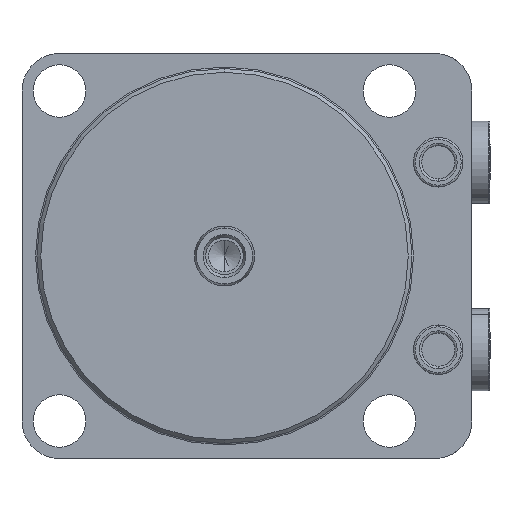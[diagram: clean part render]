
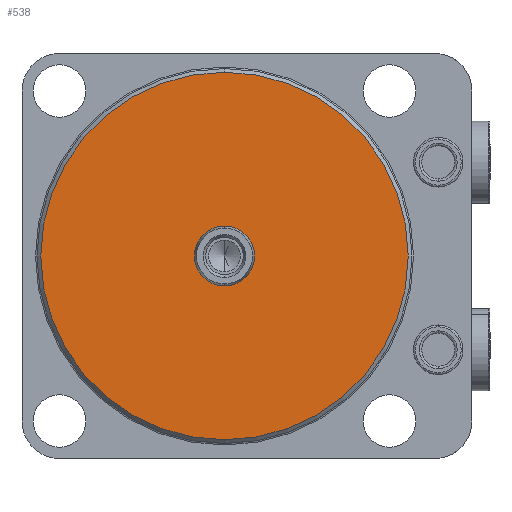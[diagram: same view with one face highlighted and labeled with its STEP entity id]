
A CAD part, front view. The second image highlights one B-rep face of the part: STEP entity #538.
In plain terms, the highlighted planar face has unit normal (0, -1, 0) as drawn and (0, 1, 0) by its records, which use the part's own axes.
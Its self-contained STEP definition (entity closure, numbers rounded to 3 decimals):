
#223=PLANE('',#3543);
#278=FACE_BOUND('',#971,.F.);
#279=FACE_BOUND('',#972,.F.);
#538=ADVANCED_FACE('',(#278,#279),#223,.T.);
#971=EDGE_LOOP('',(#2055,#2056));
#972=EDGE_LOOP('',(#2057,#2058));
#2055=ORIENTED_EDGE('',*,*,#2950,.T.);
#2056=ORIENTED_EDGE('',*,*,#2875,.T.);
#2057=ORIENTED_EDGE('',*,*,#2951,.T.);
#2058=ORIENTED_EDGE('',*,*,#2887,.T.);
#2492=VERTEX_POINT('',#5462);
#2493=VERTEX_POINT('',#5463);
#2504=VERTEX_POINT('',#5489);
#2505=VERTEX_POINT('',#5490);
#2875=EDGE_CURVE('',#2492,#2493,#3152,.T.);
#2887=EDGE_CURVE('',#2504,#2505,#3160,.T.);
#2950=EDGE_CURVE('',#2493,#2492,#3184,.T.);
#2951=EDGE_CURVE('',#2505,#2504,#3185,.T.);
#3152=CIRCLE('',#3492,8.);
#3160=CIRCLE('',#3503,49.);
#3184=CIRCLE('',#3541,8.);
#3185=CIRCLE('',#3542,49.);
#3492=AXIS2_PLACEMENT_3D('',#5461,#4316,#4317);
#3503=AXIS2_PLACEMENT_3D('',#5488,#4342,#4343);
#3541=AXIS2_PLACEMENT_3D('',#5621,#4452,#4453);
#3542=AXIS2_PLACEMENT_3D('',#5622,#4454,#4455);
#3543=AXIS2_PLACEMENT_3D('',#5623,#4456,#4457);
#4316=DIRECTION('',(0.,1.,0.));
#4317=DIRECTION('',(0.,0.,1.));
#4342=DIRECTION('',(0.,-1.,0.));
#4343=DIRECTION('',(0.,0.,1.));
#4452=DIRECTION('',(0.,1.,0.));
#4453=DIRECTION('',(0.,0.,1.));
#4454=DIRECTION('',(0.,-1.,0.));
#4455=DIRECTION('',(0.,0.,1.));
#4456=DIRECTION('',(0.,1.,0.));
#4457=DIRECTION('',(0.,0.,1.));
#5461=CARTESIAN_POINT('',(0.,0.,0.));
#5462=CARTESIAN_POINT('',(0.,0.,-8.));
#5463=CARTESIAN_POINT('',(0.,0.,8.));
#5488=CARTESIAN_POINT('',(0.,0.,0.));
#5489=CARTESIAN_POINT('',(0.,0.,-49.));
#5490=CARTESIAN_POINT('',(0.,0.,49.));
#5621=CARTESIAN_POINT('',(0.,0.,0.));
#5622=CARTESIAN_POINT('',(0.,0.,0.));
#5623=CARTESIAN_POINT('',(-54.,0.,54.));
